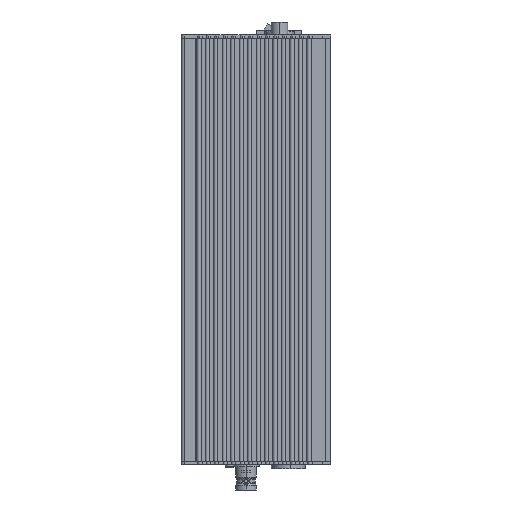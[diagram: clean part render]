
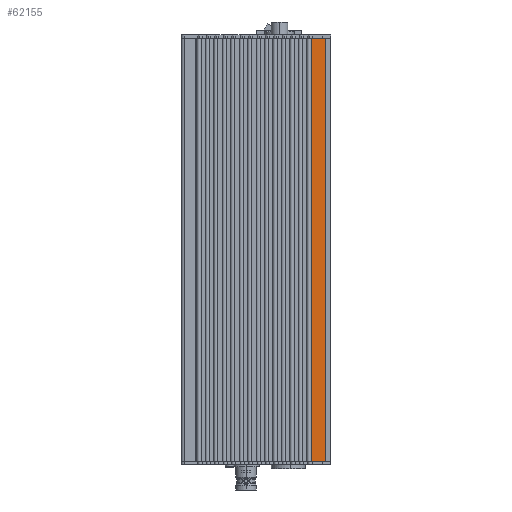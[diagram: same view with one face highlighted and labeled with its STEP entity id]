
A CAD part, left-side view. The second image highlights one B-rep face of the part: STEP entity #62155.
In plain terms, the highlighted planar face has unit normal (-1, 0, 0).
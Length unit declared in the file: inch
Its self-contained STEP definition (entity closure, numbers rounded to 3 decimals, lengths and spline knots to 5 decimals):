
#5096 = DIRECTION ( 'NONE',  ( 0., 0., 1. ) ) ;
#5257 = VERTEX_POINT ( 'NONE', #53506 ) ;
#5482 = EDGE_CURVE ( 'NONE', #5257, #8814, #79954, .T. ) ;
#6924 = LINE ( 'NONE', #45148, #25726 ) ;
#8814 = VERTEX_POINT ( 'NONE', #62168 ) ;
#11810 = EDGE_CURVE ( 'NONE', #5257, #16905, #62248, .T. ) ;
#12967 = AXIS2_PLACEMENT_3D ( 'NONE', #81724, #62560, #50108 ) ;
#16905 = VERTEX_POINT ( 'NONE', #24184 ) ;
#17960 = ORIENTED_EDGE ( 'NONE', *, *, #37206, .T. ) ;
#22311 = EDGE_LOOP ( 'NONE', ( #48302, #62108, #46453, #17960 ) ) ;
#23021 = CARTESIAN_POINT ( 'NONE',  ( -0.24606, 0.34646, 0. ) ) ;
#24184 = CARTESIAN_POINT ( 'NONE',  ( -0.24606, 0.07874, 0. ) ) ;
#25726 = VECTOR ( 'NONE', #5096, 39.37008 ) ;
#32316 = VECTOR ( 'NONE', #61854, 39.37008 ) ;
#35158 = LINE ( 'NONE', #48451, #76038 ) ;
#37206 = EDGE_CURVE ( 'NONE', #16905, #57696, #6924, .T. ) ;
#45148 = CARTESIAN_POINT ( 'NONE',  ( -0.24606, 0.07874, 0. ) ) ;
#45711 = CARTESIAN_POINT ( 'NONE',  ( -0.24606, 0.07874, 7.87402 ) ) ;
#46453 = ORIENTED_EDGE ( 'NONE', *, *, #11810, .T. ) ;
#48302 = ORIENTED_EDGE ( 'NONE', *, *, #54735, .F. ) ;
#48451 = CARTESIAN_POINT ( 'NONE',  ( -0.24606, 0.07874, 7.87402 ) ) ;
#49411 = VECTOR ( 'NONE', #79148, 39.37008 ) ;
#50108 = DIRECTION ( 'NONE',  ( 0., -1., 0. ) ) ;
#53506 = CARTESIAN_POINT ( 'NONE',  ( -0.24606, 0.34646, 0. ) ) ;
#54735 = EDGE_CURVE ( 'NONE', #8814, #57696, #35158, .T. ) ;
#55918 = PLANE ( 'NONE',  #12967 ) ;
#56446 = CARTESIAN_POINT ( 'NONE',  ( -0.24606, 0.07874, 0. ) ) ;
#57696 = VERTEX_POINT ( 'NONE', #45711 ) ;
#61854 = DIRECTION ( 'NONE',  ( 0., -1., 0. ) ) ;
#62108 = ORIENTED_EDGE ( 'NONE', *, *, #5482, .F. ) ;
#62155 = ADVANCED_FACE ( 'NONE', ( #68817 ), #55918, .T. ) ;
#62168 = CARTESIAN_POINT ( 'NONE',  ( -0.24606, 0.34646, 7.87402 ) ) ;
#62248 = LINE ( 'NONE', #56446, #32316 ) ;
#62560 = DIRECTION ( 'NONE',  ( -1., 0., 0. ) ) ;
#65522 = DIRECTION ( 'NONE',  ( 0., -1., 0. ) ) ;
#68817 = FACE_OUTER_BOUND ( 'NONE', #22311, .T. ) ;
#76038 = VECTOR ( 'NONE', #65522, 39.37008 ) ;
#79148 = DIRECTION ( 'NONE',  ( 0., 0., 1. ) ) ;
#79954 = LINE ( 'NONE', #23021, #49411 ) ;
#81724 = CARTESIAN_POINT ( 'NONE',  ( -0.24606, 0.07874, 0. ) ) ;
